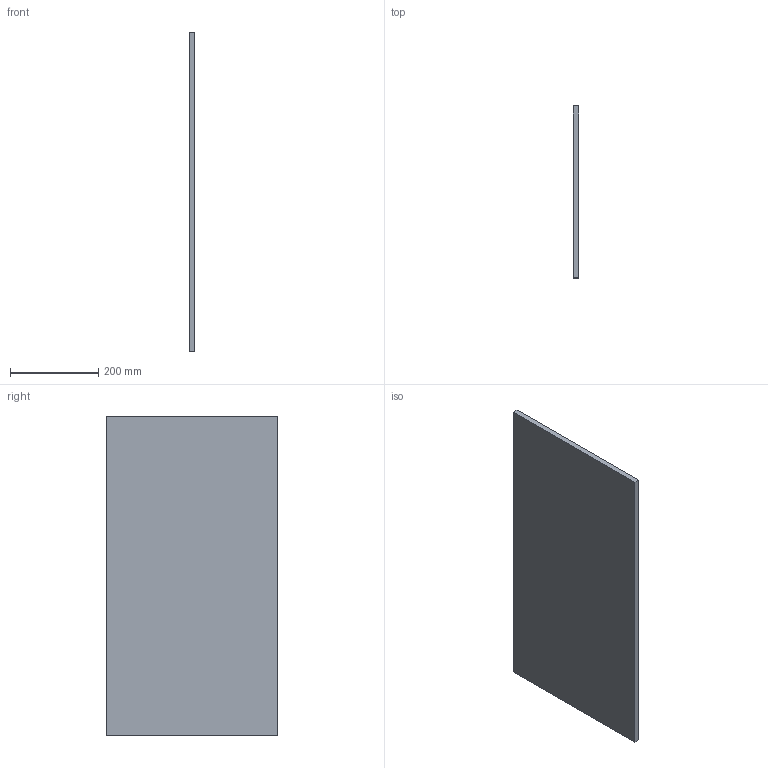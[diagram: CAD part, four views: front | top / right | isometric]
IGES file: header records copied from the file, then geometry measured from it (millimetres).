
Start section: Data from Parasolid IGES Translator 19.0.9, Copyright(c) 2006 Siemens PL M Software. All Rights Reserved.
Global section: file name: noorth-SI-H 72 D 38,8 W 1,2_9701.igs; native system: By Siemens PLM Incorporated; preprocessor: XPlus GENERIC/IGES 19.0.9; author: Noname; organization: Noname; date: 20200710.084235; units: metre
Bounding box: 12 x 388 x 720 mm (x, y, z)
Volume: 3352320 mm3; surface area: 585312 mm2
Topology: 1 solids, 1 shells, 6 faces, 12 edges, 8 vertices
Faces by surface type: plane 6
